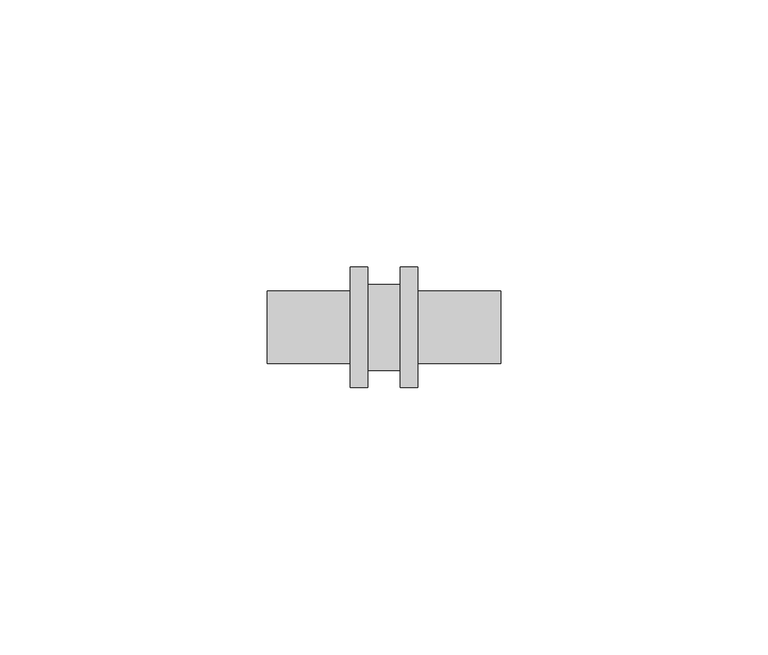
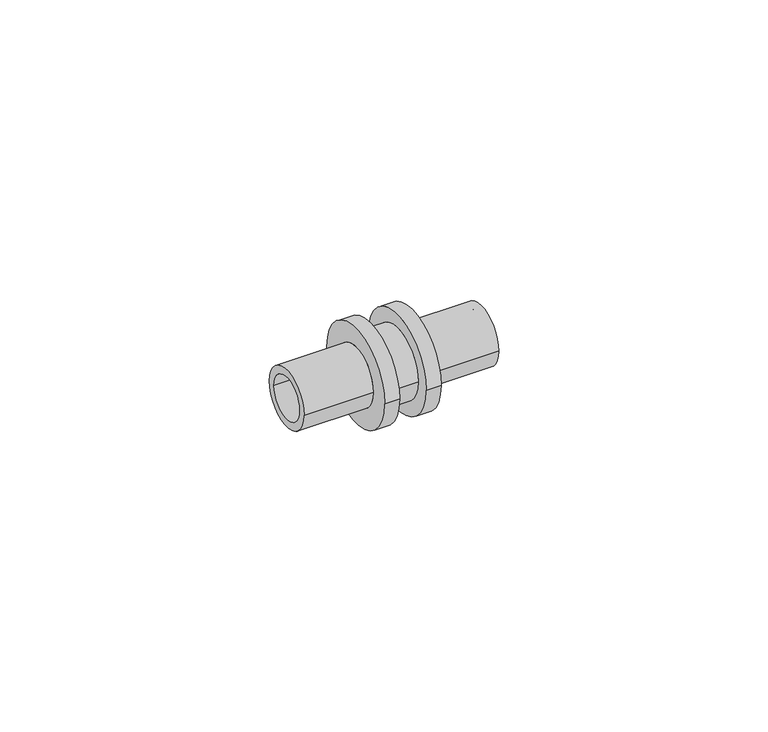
"""IFC4 building model written with IfcOpenShell, lengths in millimetres: pipe fitting geometry, RAUTITAN_Union_LX : RTI LX U NL."""

from ifc_helpers import new_model, si_unit, frame, origin, place, context, project, spatial, polyline, circle_curve, source, transform, mapped, element, save
from ifc_brep_helpers import plane_surface, cylinder_surface, revolved_surface, advanced_brep


def pipe_fitting_3e5a956d(model_context):
    return source(origin(), model_context, "Body", "AdvancedBrep", [
        advanced_brep(
        [(-21.8, 4.95, 0.0), (-21.8, -4.95, 0.0), (21.8, -4.95, 0.0), (21.8, 4.95, 0.0), (-6.3, 6.75, 0.0), (-6.3, -6.75, 0.0), (-21.8, -6.75, 0.0), (-21.8, 6.75, 0.0), (-3.0, 11.25, 0.0), (-3.0, -11.25, 0.0), (-6.3, -11.25, 0.0), (-6.3, 11.25, 0.0), (3.0, 8.05, 0.0), (3.0, -8.05, 0.0), (-3.0, -8.05, 0.0), (-3.0, 8.05, 0.0), (6.3, 11.25, 0.0), (6.3, -11.25, 0.0), (3.0, -11.25, 0.0), (3.0, 11.25, 0.0), (21.8, 6.75, 0.0), (21.8, -6.75, 0.0), (6.3, -6.75, 0.0), (6.3, 6.75, 0.0)],
        [
            (0, 1, circle_curve(frame((-21.8, 0.0, 0.0), z_axis=(-1.0, 0.0, 0.0), x_axis=(0.0, -1.0, 0.0)), 4.95)),
            (1, 2),
            (2, 3, circle_curve(frame((21.8, 0.0, 0.0), z_axis=(1.0, 0.0, 0.0), x_axis=(0.0, -1.0, 0.0)), 4.95)),
            (3, 0),
            (4, 5, circle_curve(frame((-6.3, 0.0, 0.0), z_axis=(-1.0, 0.0, 0.0), x_axis=(0.0, -1.0, 0.0)), 6.75)),
            (5, 6),
            (6, 7, circle_curve(frame((-21.8, 0.0, 0.0), z_axis=(1.0, 0.0, 0.0), x_axis=(0.0, -1.0, 0.0)), 6.75)),
            (7, 4),
            (8, 9, circle_curve(frame((-3.0, 0.0, 0.0), z_axis=(-1.0, 0.0, 0.0), x_axis=(0.0, -1.0, 0.0)), 11.25)),
            (9, 10),
            (10, 11, circle_curve(frame((-6.3, 0.0, 0.0), z_axis=(1.0, 0.0, 0.0), x_axis=(0.0, -1.0, 0.0)), 11.25)),
            (11, 8),
            (12, 13, circle_curve(frame((3.0, 0.0, 0.0), z_axis=(-1.0, 0.0, 0.0), x_axis=(0.0, -1.0, 0.0)), 8.05)),
            (13, 14),
            (14, 15, circle_curve(frame((-3.0, 0.0, 0.0), z_axis=(1.0, 0.0, 0.0), x_axis=(0.0, -1.0, 0.0)), 8.05)),
            (15, 12),
            (16, 17, circle_curve(frame((6.3, 0.0, 0.0), z_axis=(-1.0, 0.0, 0.0), x_axis=(0.0, -1.0, 0.0)), 11.25)),
            (17, 18),
            (18, 19, circle_curve(frame((3.0, 0.0, 0.0), z_axis=(1.0, 0.0, 0.0), x_axis=(0.0, -1.0, 0.0)), 11.25)),
            (19, 16),
            (20, 21, circle_curve(frame((21.8, 0.0, 0.0), z_axis=(-1.0, 0.0, 0.0), x_axis=(0.0, -1.0, 0.0)), 6.75)),
            (21, 22),
            (22, 23, circle_curve(frame((6.3, 0.0, 0.0), z_axis=(1.0, 0.0, 0.0), x_axis=(0.0, -1.0, 0.0)), 6.75)),
            (23, 20),
            (1, 0, circle_curve(frame((-21.8, 0.0, 0.0), z_axis=(-1.0, 0.0, 0.0), x_axis=(0.0, 1.0, 0.0)), 4.95)),
            (3, 2, circle_curve(frame((21.8, 0.0, 0.0), z_axis=(1.0, 0.0, 0.0), x_axis=(0.0, 1.0, 0.0)), 4.95)),
            (6, 7, circle_curve(frame((-21.8, 0.0, 0.0), z_axis=(-1.0, 0.0, 0.0), x_axis=(0.0, 1.0, 0.0)), 6.75)),
            (5, 4, circle_curve(frame((-6.3, 0.0, 0.0), z_axis=(-1.0, 0.0, 0.0), x_axis=(0.0, 1.0, 0.0)), 6.75)),
            (10, 11, circle_curve(frame((-6.3, 0.0, 0.0), z_axis=(-1.0, 0.0, 0.0), x_axis=(0.0, 1.0, 0.0)), 11.25)),
            (9, 8, circle_curve(frame((-3.0, 0.0, 0.0), z_axis=(-1.0, 0.0, 0.0), x_axis=(0.0, 1.0, 0.0)), 11.25)),
            (14, 15, circle_curve(frame((-3.0, 0.0, 0.0), z_axis=(-1.0, 0.0, 0.0), x_axis=(0.0, 1.0, 0.0)), 8.05)),
            (13, 12, circle_curve(frame((3.0, 0.0, 0.0), z_axis=(-1.0, 0.0, 0.0), x_axis=(0.0, 1.0, 0.0)), 8.05)),
            (18, 19, circle_curve(frame((3.0, 0.0, 0.0), z_axis=(-1.0, 0.0, 0.0), x_axis=(0.0, 1.0, 0.0)), 11.25)),
            (17, 16, circle_curve(frame((6.3, 0.0, 0.0), z_axis=(-1.0, 0.0, 0.0), x_axis=(0.0, 1.0, 0.0)), 11.25)),
            (22, 23, circle_curve(frame((6.3, 0.0, 0.0), z_axis=(-1.0, 0.0, 0.0), x_axis=(0.0, 1.0, 0.0)), 6.75)),
            (21, 20, circle_curve(frame((21.8, 0.0, 0.0), z_axis=(-1.0, 0.0, 0.0), x_axis=(0.0, 1.0, 0.0)), 6.75)),
        ],
        [
            revolved_surface(polyline([(21.8, -4.95, 0.0), (-21.8, -4.95, 0.0)]), (0.0, 0.0, 0.0), (1.0, 0.0, 0.0)),
            cylinder_surface(frame((0.0, 0.0, 0.0), z_axis=(1.0, 0.0, 0.0), x_axis=(0.0, -1.0, 0.0)), 6.75),
            cylinder_surface(frame((0.0, 0.0, 0.0), z_axis=(1.0, 0.0, 0.0), x_axis=(0.0, -1.0, 0.0)), 11.25),
            cylinder_surface(frame((0.0, 0.0, 0.0), z_axis=(1.0, 0.0, 0.0), x_axis=(0.0, -1.0, 0.0)), 8.05),
            revolved_surface(polyline([(21.8, 4.95, 0.0), (-21.8, 4.95, 0.0)]), (0.0, 0.0, 0.0), (1.0, 0.0, 0.0)),
            plane_surface(frame((-21.8, 0.0, 0.0), z_axis=(-1.0, 0.0, 0.0), x_axis=(0.0, 1.0, 0.0))),
            cylinder_surface(frame((0.0, 0.0, 0.0), z_axis=(1.0, 0.0, 0.0), x_axis=(0.0, 1.0, 0.0)), 6.75),
            plane_surface(frame((-6.3, 0.0, 0.0), z_axis=(-1.0, 0.0, 0.0), x_axis=(0.0, 1.0, 0.0))),
            cylinder_surface(frame((0.0, 0.0, 0.0), z_axis=(1.0, 0.0, 0.0), x_axis=(0.0, 1.0, 0.0)), 11.25),
            plane_surface(frame((-3.0, 0.0, 0.0), z_axis=(1.0, 0.0, 0.0), x_axis=(0.0, 1.0, 0.0))),
            cylinder_surface(frame((0.0, 0.0, 0.0), z_axis=(1.0, 0.0, 0.0), x_axis=(0.0, 1.0, 0.0)), 8.05),
            plane_surface(frame((3.0, 0.0, 0.0), z_axis=(-1.0, 0.0, 0.0), x_axis=(0.0, 1.0, 0.0))),
            plane_surface(frame((6.3, 0.0, 0.0), z_axis=(1.0, 0.0, 0.0), x_axis=(0.0, 1.0, 0.0))),
            plane_surface(frame((21.8, 0.0, 0.0), z_axis=(1.0, 0.0, 0.0), x_axis=(0.0, 1.0, 0.0))),
        ],
        [
            (0, [[1, 2, 3, 4]]),
            (1, [[5, 6, 7, 8]]),
            (2, [[9, 10, 11, 12]]),
            (3, [[13, 14, 15, 16]]),
            (2, [[17, 18, 19, 20]]),
            (1, [[21, 22, 23, 24]]),
            (4, [[25, -4, 26, -2]]),
            (5, [[27, -7], [-25, -1]]),
            (6, [[28, -8, -27, -6]]),
            (7, [[29, -11], [-28, -5]]),
            (8, [[30, -12, -29, -10]]),
            (9, [[-30, -9], [31, -15]]),
            (10, [[32, -16, -31, -14]]),
            (11, [[33, -19], [-32, -13]]),
            (8, [[34, -20, -33, -18]]),
            (12, [[-34, -17], [35, -23]]),
            (6, [[36, -24, -35, -22]]),
            (13, [[-36, -21], [-26, -3]]),
        ],
    ),
    ])


if __name__ == "__main__":
    model = new_model("IFC4")
    model_context = context("Model", 3, world=origin())
    ifc_project = project(units=[si_unit("LENGTHUNIT", "METRE", prefix="MILLI")], contexts=[model_context])
    site = spatial("IfcSite", under=ifc_project)
    building = spatial("IfcBuilding", under=site)
    placement = place(None, origin())
    pipe_fitting_shape = pipe_fitting_3e5a956d(model_context)
    element("IfcPipeFitting", 1, ObjectType="RAUTITAN_Union_LX : RTI LX U NL", at=placement, inside=building, context=model_context, shape_type="MappedRepresentation", body=[
        mapped(pipe_fitting_shape, transform((0.0, 0.0, 0.0), x_axis=(1.0, 0.0, 0.0), y_axis=(0.0, 1.0, 0.0), z_axis=(0.0, 0.0, 1.0))),
    ])
    save(model, "model.ifc")
